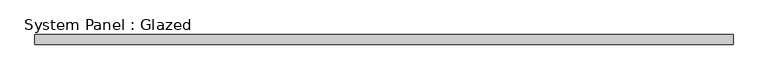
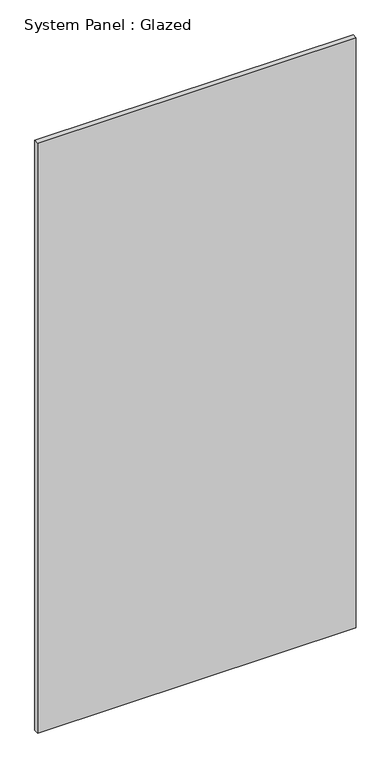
"""IFC4 building model written with IfcOpenShell, lengths in millimetres: plate geometry, System Panel : Glazed."""

from ifc_helpers import new_model, si_unit, origin, origin_with_axes, place, context, project, spatial, polyline, outline, extrude, source, transform, mapped, element, save


def system_panel_glazed_6c0831e3(model_context):
    return source(origin(), model_context, "Body", "SweptSolid", [
        extrude(outline(polyline([(882.65, 19.05), (-882.65, 19.05), (-882.65, 44.45), (882.65, 44.45), (882.65, 19.05)])), origin_with_axes(), (0.0, 0.0, 1.0), 3454.4),
    ])


if __name__ == "__main__":
    model = new_model("IFC4")
    model_context = context("Model", 3, world=origin())
    ifc_project = project(units=[si_unit("LENGTHUNIT", "METRE", prefix="MILLI")], contexts=[model_context])
    site = spatial("IfcSite", under=ifc_project)
    building = spatial("IfcBuilding", under=site)
    placement = place(None, origin())
    system_panel_glazed_shape = system_panel_glazed_6c0831e3(model_context)
    element("IfcPlate", 1, ObjectType="System Panel : Glazed", at=placement, inside=building, context=model_context, shape_type="MappedRepresentation", body=[
        mapped(system_panel_glazed_shape, transform((0.0, 0.0, 0.0), x_axis=(1.0, 0.0, 0.0), y_axis=(0.0, 1.0, 0.0), z_axis=(0.0, 0.0, 1.0))),
    ])
    save(model, "model.ifc")
